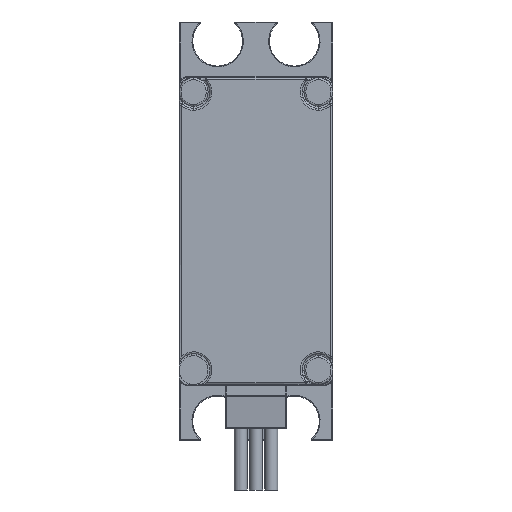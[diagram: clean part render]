
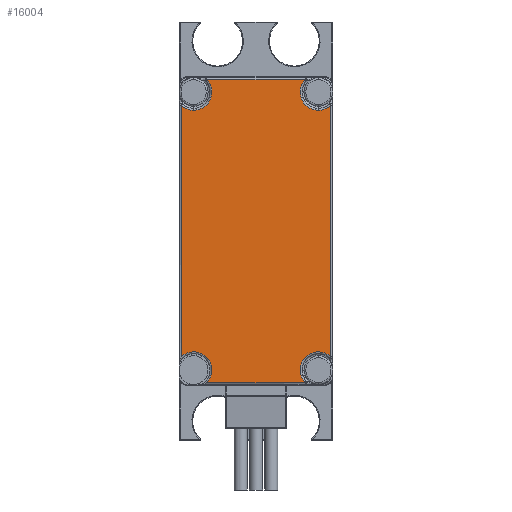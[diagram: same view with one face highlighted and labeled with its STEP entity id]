
A CAD part, front view. The second image highlights one B-rep face of the part: STEP entity #16004.
In plain terms, the highlighted planar face has unit normal (0, -1, 0).
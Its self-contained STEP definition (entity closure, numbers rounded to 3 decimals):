
#124 = CIRCLE ( 'NONE', #2573, 2.375 ) ;
#385 = LINE ( 'NONE', #10781, #11344 ) ;
#897 = CARTESIAN_POINT ( 'NONE',  ( 8.125, 2.05, -1.875 ) ) ;
#1359 = PLANE ( 'NONE',  #10507 ) ;
#1623 = CIRCLE ( 'NONE', #12463, 2.375 ) ;
#2182 = EDGE_CURVE ( 'NONE', #11631, #14805, #11200, .T. ) ;
#2223 = CARTESIAN_POINT ( 'NONE',  ( 9.75, 2.05, -36.393 ) ) ;
#2279 = DIRECTION ( 'NONE',  ( -1., 0., 0. ) ) ;
#2413 = VERTEX_POINT ( 'NONE', #6416 ) ;
#2573 = AXIS2_PLACEMENT_3D ( 'NONE', #18211, #16684, #15216 ) ;
#2806 = LINE ( 'NONE', #7692, #9309 ) ;
#2814 = FACE_OUTER_BOUND ( 'NONE', #4366, .T. ) ;
#2855 = CARTESIAN_POINT ( 'NONE',  ( -6.393, 2.05, -0.25 ) ) ;
#3492 = CARTESIAN_POINT ( 'NONE',  ( 9.75, 2.05, -3.607 ) ) ;
#4018 = DIRECTION ( 'NONE',  ( 0., 0., -1. ) ) ;
#4293 = DIRECTION ( 'NONE',  ( 0., 0., -1. ) ) ;
#4366 = EDGE_LOOP ( 'NONE', ( #16508, #16473, #14281, #9473, #10954, #7413, #15746, #18939, #14266, #14022 ) ) ;
#4369 = VERTEX_POINT ( 'NONE', #11861 ) ;
#4633 = CARTESIAN_POINT ( 'NONE',  ( -8.125, 2.05, -1.875 ) ) ;
#4682 = CARTESIAN_POINT ( 'NONE',  ( 8.125, 2.05, -4.25 ) ) ;
#4853 = DIRECTION ( 'NONE',  ( 0., 0., -1. ) ) ;
#4934 = EDGE_CURVE ( 'NONE', #13687, #12475, #15141, .T. ) ;
#4940 = EDGE_CURVE ( 'NONE', #2413, #7410, #385, .T. ) ;
#5092 = CARTESIAN_POINT ( 'NONE',  ( -9.75, 2.05, -3.607 ) ) ;
#5182 = CARTESIAN_POINT ( 'NONE',  ( -8.125, 2.05, -4.25 ) ) ;
#6416 = CARTESIAN_POINT ( 'NONE',  ( -6.393, 2.05, -39.75 ) ) ;
#6810 = AXIS2_PLACEMENT_3D ( 'NONE', #4633, #10559, #9103 ) ;
#6940 = DIRECTION ( 'NONE',  ( 0., 1., 0. ) ) ;
#7410 = VERTEX_POINT ( 'NONE', #18305 ) ;
#7413 = ORIENTED_EDGE ( 'NONE', *, *, #4934, .T. ) ;
#7692 = CARTESIAN_POINT ( 'NONE',  ( 9.75, 2.05, 0. ) ) ;
#7781 = CARTESIAN_POINT ( 'NONE',  ( -9.75, 2.05, -37.125 ) ) ;
#8328 = CARTESIAN_POINT ( 'NONE',  ( 0., 2.05, -0.25 ) ) ;
#8422 = AXIS2_PLACEMENT_3D ( 'NONE', #18999, #11636, #14650 ) ;
#9103 = DIRECTION ( 'NONE',  ( 0., 0., -1. ) ) ;
#9251 = VERTEX_POINT ( 'NONE', #5182 ) ;
#9306 = VECTOR ( 'NONE', #2279, 1000. ) ;
#9309 = VECTOR ( 'NONE', #17559, 1000. ) ;
#9473 = ORIENTED_EDGE ( 'NONE', *, *, #13500, .T. ) ;
#9688 = VERTEX_POINT ( 'NONE', #2223 ) ;
#10021 = DIRECTION ( 'NONE',  ( 0., 1., 0. ) ) ;
#10209 = CARTESIAN_POINT ( 'NONE',  ( 0., 2.05, 0. ) ) ;
#10212 = CIRCLE ( 'NONE', #6810, 2.375 ) ;
#10469 = EDGE_CURVE ( 'NONE', #14805, #4369, #1623, .T. ) ;
#10507 = AXIS2_PLACEMENT_3D ( 'NONE', #10209, #19113, #11753 ) ;
#10559 = DIRECTION ( 'NONE',  ( 0., 1., 0. ) ) ;
#10634 = EDGE_CURVE ( 'NONE', #12475, #2413, #15563, .T. ) ;
#10781 = CARTESIAN_POINT ( 'NONE',  ( 6.393, 2.05, -39.75 ) ) ;
#10932 = AXIS2_PLACEMENT_3D ( 'NONE', #16336, #10021, #4293 ) ;
#10954 = ORIENTED_EDGE ( 'NONE', *, *, #12129, .T. ) ;
#11200 = CIRCLE ( 'NONE', #8422, 2.375 ) ;
#11344 = VECTOR ( 'NONE', #13772, 1000. ) ;
#11631 = VERTEX_POINT ( 'NONE', #3492 ) ;
#11636 = DIRECTION ( 'NONE',  ( 0., 1., 0. ) ) ;
#11637 = VECTOR ( 'NONE', #4853, 1000. ) ;
#11753 = DIRECTION ( 'NONE',  ( 0., 0., -1. ) ) ;
#11861 = CARTESIAN_POINT ( 'NONE',  ( 6.393, 2.05, -0.25 ) ) ;
#12129 = EDGE_CURVE ( 'NONE', #9251, #13687, #124, .T. ) ;
#12390 = VERTEX_POINT ( 'NONE', #2855 ) ;
#12463 = AXIS2_PLACEMENT_3D ( 'NONE', #897, #14380, #15209 ) ;
#12475 = VERTEX_POINT ( 'NONE', #13454 ) ;
#13243 = EDGE_CURVE ( 'NONE', #4369, #12390, #16863, .T. ) ;
#13454 = CARTESIAN_POINT ( 'NONE',  ( -9.75, 2.05, -36.393 ) ) ;
#13500 = EDGE_CURVE ( 'NONE', #12390, #9251, #10212, .T. ) ;
#13687 = VERTEX_POINT ( 'NONE', #5092 ) ;
#13772 = DIRECTION ( 'NONE',  ( 1., 0., 0. ) ) ;
#14022 = ORIENTED_EDGE ( 'NONE', *, *, #18288, .T. ) ;
#14266 = ORIENTED_EDGE ( 'NONE', *, *, #17012, .T. ) ;
#14281 = ORIENTED_EDGE ( 'NONE', *, *, #13243, .T. ) ;
#14301 = CARTESIAN_POINT ( 'NONE',  ( 8.125, 2.05, -38.125 ) ) ;
#14380 = DIRECTION ( 'NONE',  ( 0., 1., 0. ) ) ;
#14650 = DIRECTION ( 'NONE',  ( 0., 0., -1. ) ) ;
#14805 = VERTEX_POINT ( 'NONE', #4682 ) ;
#15141 = LINE ( 'NONE', #7781, #11637 ) ;
#15209 = DIRECTION ( 'NONE',  ( 0., 0., -1. ) ) ;
#15216 = DIRECTION ( 'NONE',  ( 0., 0., -1. ) ) ;
#15563 = CIRCLE ( 'NONE', #10932, 2.375 ) ;
#15746 = ORIENTED_EDGE ( 'NONE', *, *, #10634, .T. ) ;
#16004 = ADVANCED_FACE ( 'NONE', ( #2814 ), #1359, .T. ) ;
#16057 = AXIS2_PLACEMENT_3D ( 'NONE', #14301, #6940, #4018 ) ;
#16336 = CARTESIAN_POINT ( 'NONE',  ( -8.125, 2.05, -38.125 ) ) ;
#16375 = CIRCLE ( 'NONE', #16057, 2.375 ) ;
#16473 = ORIENTED_EDGE ( 'NONE', *, *, #10469, .T. ) ;
#16508 = ORIENTED_EDGE ( 'NONE', *, *, #2182, .T. ) ;
#16684 = DIRECTION ( 'NONE',  ( 0., 1., 0. ) ) ;
#16863 = LINE ( 'NONE', #8328, #9306 ) ;
#17012 = EDGE_CURVE ( 'NONE', #7410, #9688, #16375, .T. ) ;
#17559 = DIRECTION ( 'NONE',  ( 0., 0., 1. ) ) ;
#18211 = CARTESIAN_POINT ( 'NONE',  ( -8.125, 2.05, -1.875 ) ) ;
#18288 = EDGE_CURVE ( 'NONE', #9688, #11631, #2806, .T. ) ;
#18305 = CARTESIAN_POINT ( 'NONE',  ( 6.393, 2.05, -39.75 ) ) ;
#18939 = ORIENTED_EDGE ( 'NONE', *, *, #4940, .T. ) ;
#18999 = CARTESIAN_POINT ( 'NONE',  ( 8.125, 2.05, -1.875 ) ) ;
#19113 = DIRECTION ( 'NONE',  ( 0., -1., 0. ) ) ;
